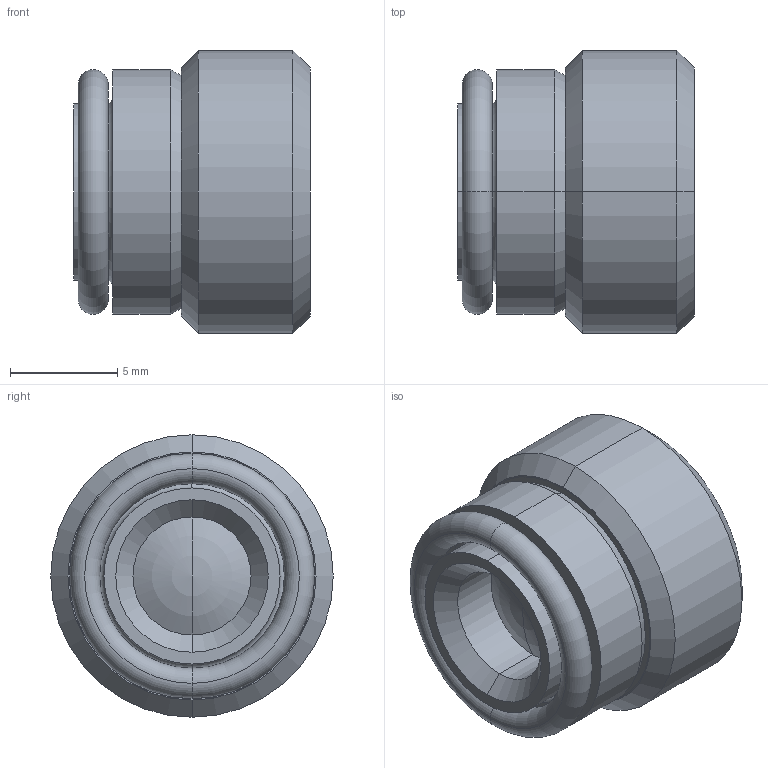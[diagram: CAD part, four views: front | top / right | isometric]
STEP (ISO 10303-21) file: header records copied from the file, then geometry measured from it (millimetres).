
FILE_DESCRIPTION((''),'2;1');
FILE_NAME('VJO1_06_SG','2015-01-14T',('d.helta'),(''),'PRO/ENGINEER BY PARAMETRIC TECHNOLOGY CORPORATION, 2014090','PRO/ENGINEER BY PARAMETRIC TECHNOLOGY CORPORATION, 2014090','');
FILE_SCHEMA(('AUTOMOTIVE_DESIGN { 1 0 10303 214 1 1 1 1 }'));
Length unit declared in the file: millimetre
Products named in the file (1): VJO1_06_SG
Bounding box: 11 x 13.16 x 13.16 mm (x, y, z)
Volume: 1053.4 mm3; surface area: 1275.6 mm2
Topology: 2 solids, 3 shells, 48 faces, 105 edges, 73 vertices
Faces by surface type: cylinder 22, plane 10, cone 8, torus 6, sphere 2
Entity records: 1417 total; most frequent: DIRECTION 267, CARTESIAN_POINT 212, ORIENTED_EDGE 188, AXIS2_PLACEMENT_3D 115, EDGE_CURVE 96, CIRCLE 66, VERTEX_POINT 59, EDGE_LOOP 57
